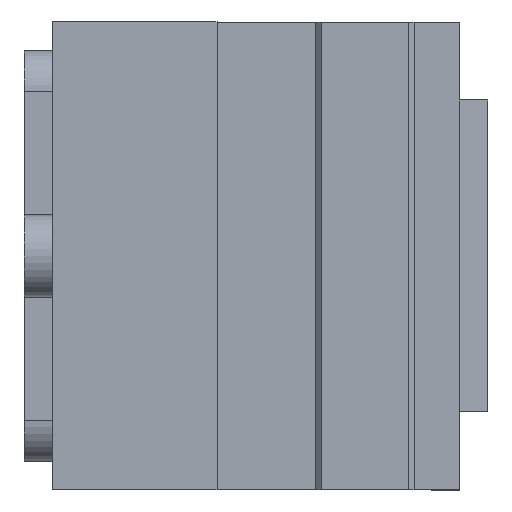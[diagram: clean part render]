
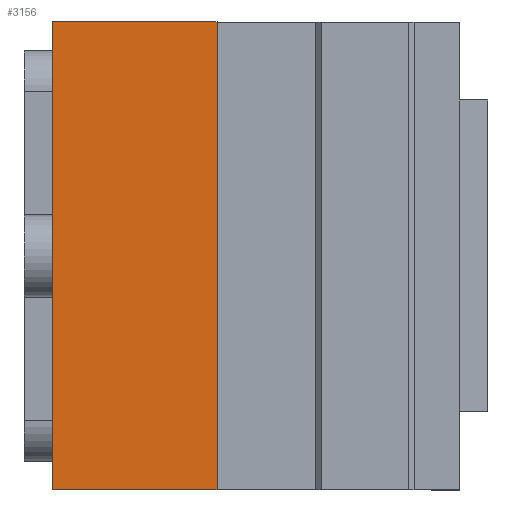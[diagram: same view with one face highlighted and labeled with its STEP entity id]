
A CAD part, left-side view. The second image highlights one B-rep face of the part: STEP entity #3156.
In plain terms, the highlighted planar face has unit normal (-1, 0, 0).
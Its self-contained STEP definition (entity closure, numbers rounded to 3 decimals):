
#84 = VECTOR ( 'NONE', #2644, 1000. ) ;
#159 = VECTOR ( 'NONE', #168, 1000. ) ;
#168 = DIRECTION ( 'NONE',  ( 0., -1., 0. ) ) ;
#270 = AXIS2_PLACEMENT_3D ( 'NONE', #2322, #2076, #2513 ) ;
#451 = DIRECTION ( 'NONE',  ( 0., 0., 1. ) ) ;
#560 = FACE_OUTER_BOUND ( 'NONE', #1924, .T. ) ;
#612 = LINE ( 'NONE', #1649, #84 ) ;
#701 = ORIENTED_EDGE ( 'NONE', *, *, #3224, .F. ) ;
#787 = DIRECTION ( 'NONE',  ( 0., 0., 1. ) ) ;
#792 = EDGE_CURVE ( 'NONE', #1806, #2654, #987, .T. ) ;
#987 = LINE ( 'NONE', #1963, #2596 ) ;
#1070 = CARTESIAN_POINT ( 'NONE',  ( -80., 57., 28.5 ) ) ;
#1204 = ORIENTED_EDGE ( 'NONE', *, *, #792, .F. ) ;
#1232 = LINE ( 'NONE', #2174, #159 ) ;
#1255 = VERTEX_POINT ( 'NONE', #2436 ) ;
#1545 = PLANE ( 'NONE',  #270 ) ;
#1634 = EDGE_CURVE ( 'NONE', #1255, #2952, #2008, .T. ) ;
#1649 = CARTESIAN_POINT ( 'NONE',  ( -80., 77., -28.5 ) ) ;
#1775 = ORIENTED_EDGE ( 'NONE', *, *, #1634, .T. ) ;
#1806 = VERTEX_POINT ( 'NONE', #2679 ) ;
#1924 = EDGE_LOOP ( 'NONE', ( #1775, #3102, #1204, #701 ) ) ;
#1963 = CARTESIAN_POINT ( 'NONE',  ( -80., 77., 28.5 ) ) ;
#2008 = LINE ( 'NONE', #2792, #2528 ) ;
#2076 = DIRECTION ( 'NONE',  ( -1., 0., 0. ) ) ;
#2136 = EDGE_CURVE ( 'NONE', #2654, #2952, #1232, .T. ) ;
#2174 = CARTESIAN_POINT ( 'NONE',  ( -80., 27.5, 28.5 ) ) ;
#2322 = CARTESIAN_POINT ( 'NONE',  ( -80., 24., 28.5 ) ) ;
#2359 = CARTESIAN_POINT ( 'NONE',  ( -80., 77., 28.5 ) ) ;
#2436 = CARTESIAN_POINT ( 'NONE',  ( -80., 57., -28.5 ) ) ;
#2513 = DIRECTION ( 'NONE',  ( 0., 0., 1. ) ) ;
#2528 = VECTOR ( 'NONE', #787, 1000. ) ;
#2596 = VECTOR ( 'NONE', #451, 1000. ) ;
#2644 = DIRECTION ( 'NONE',  ( 0., 1., 0. ) ) ;
#2654 = VERTEX_POINT ( 'NONE', #2359 ) ;
#2679 = CARTESIAN_POINT ( 'NONE',  ( -80., 77., -28.5 ) ) ;
#2792 = CARTESIAN_POINT ( 'NONE',  ( -80., 57., -28.5 ) ) ;
#2952 = VERTEX_POINT ( 'NONE', #1070 ) ;
#3102 = ORIENTED_EDGE ( 'NONE', *, *, #2136, .F. ) ;
#3156 = ADVANCED_FACE ( 'NONE', ( #560 ), #1545, .T. ) ;
#3224 = EDGE_CURVE ( 'NONE', #1255, #1806, #612, .T. ) ;
